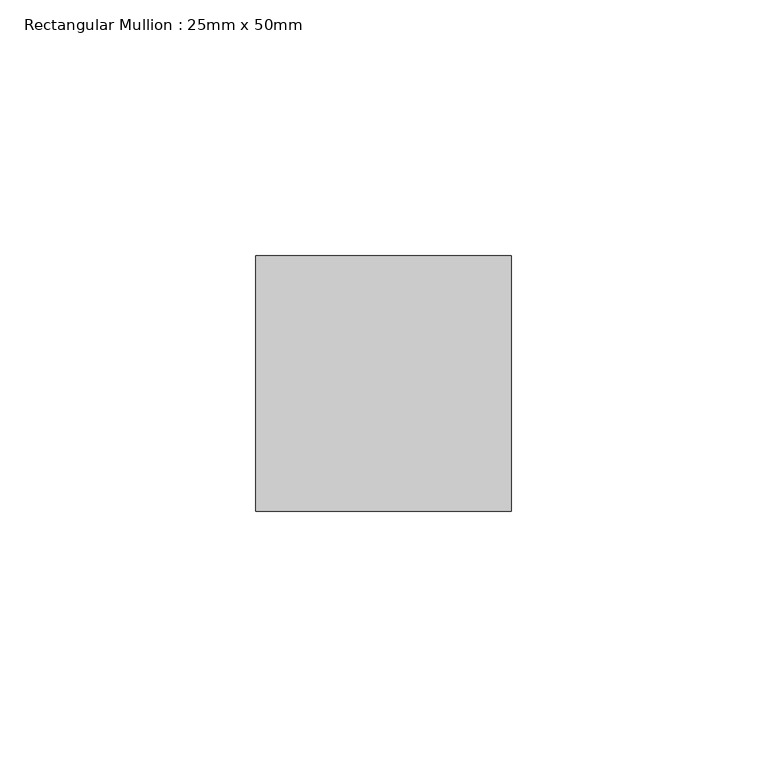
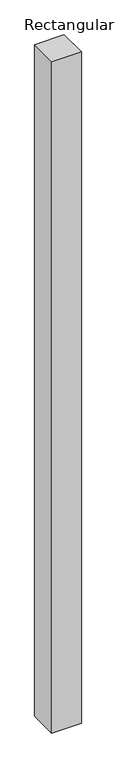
"""IFC4 building model written with IfcOpenShell, lengths in millimetres: member geometry, Rectangular Mullion : 25mm x 50mm."""

from ifc_helpers import new_model, si_unit, frame, origin, place, context, project, spatial, polyline, outline, extrude, source, transform, mapped, element, save


def rectangular_mullion_25mm_x_50mm_3aef7776(model_context):
    return source(origin(), model_context, "Body", "SweptSolid", [
        extrude(outline(polyline([(25.0, 25.0), (25.0, -25.0), (-25.0, -25.0), (-25.0, 25.0), (25.0, 25.0)])), frame((0.0, 0.0, -1199.6505764), z_axis=(0.0, 0.0, 1.0), x_axis=(1.0, 0.0, 0.0)), (0.0, 0.0, 1.0), 1199.6505764),
    ])


if __name__ == "__main__":
    model = new_model("IFC4")
    model_context = context("Model", 3, world=origin())
    ifc_project = project(units=[si_unit("LENGTHUNIT", "METRE", prefix="MILLI")], contexts=[model_context])
    site = spatial("IfcSite", under=ifc_project)
    building = spatial("IfcBuilding", under=site)
    placement = place(None, origin())
    rectangular_mullion_25mm_x_50mm_shape = rectangular_mullion_25mm_x_50mm_3aef7776(model_context)
    element("IfcMember", 1, ObjectType="Rectangular Mullion : 25mm x 50mm", at=placement, inside=building, context=model_context, shape_type="MappedRepresentation", body=[
        mapped(rectangular_mullion_25mm_x_50mm_shape, transform((0.0, 0.0, 0.0), x_axis=(1.0, 0.0, 0.0), y_axis=(0.0, 1.0, 0.0), z_axis=(0.0, 0.0, 1.0))),
    ])
    save(model, "model.ifc")
